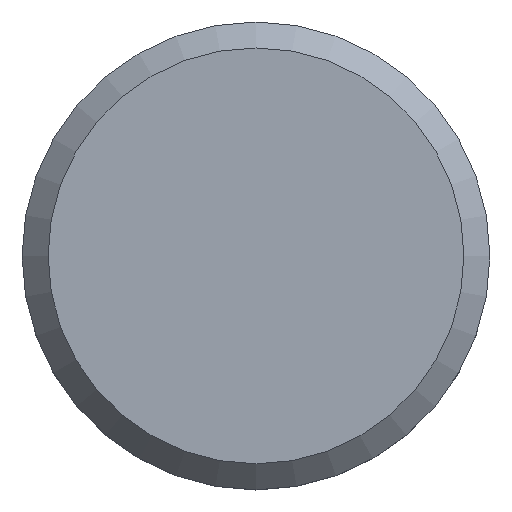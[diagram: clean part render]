
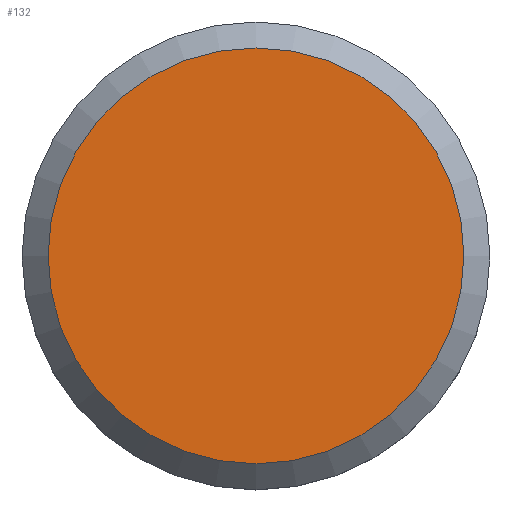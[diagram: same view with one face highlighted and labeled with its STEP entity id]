
A CAD part, top view. The second image highlights one B-rep face of the part: STEP entity #132.
In plain terms, the highlighted planar face has unit normal (0, 0, 1).
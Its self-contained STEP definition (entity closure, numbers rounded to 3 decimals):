
#1 = CARTESIAN_POINT ( 'NONE',  ( 0., 0., 0. ) ) ;
#13 = FACE_OUTER_BOUND ( 'NONE', #92, .T. ) ;
#15 = DIRECTION ( 'NONE',  ( 1., 0., 0. ) ) ;
#27 = CARTESIAN_POINT ( 'NONE',  ( 0., 0., 0. ) ) ;
#42 = AXIS2_PLACEMENT_3D ( 'NONE', #27, #138, #96 ) ;
#54 = EDGE_CURVE ( 'NONE', #80, #80, #122, .T. ) ;
#80 = VERTEX_POINT ( 'NONE', #105 ) ;
#92 = EDGE_LOOP ( 'NONE', ( #104 ) ) ;
#96 = DIRECTION ( 'NONE',  ( -1., 0., 0. ) ) ;
#99 = DIRECTION ( 'NONE',  ( 0., 0., 1. ) ) ;
#103 = PLANE ( 'NONE',  #42 ) ;
#104 = ORIENTED_EDGE ( 'NONE', *, *, #54, .T. ) ;
#105 = CARTESIAN_POINT ( 'NONE',  ( 4., 0., 0. ) ) ;
#122 = CIRCLE ( 'NONE', #136, 4. ) ;
#132 = ADVANCED_FACE ( 'NONE', ( #13 ), #103, .F. ) ;
#136 = AXIS2_PLACEMENT_3D ( 'NONE', #1, #99, #15 ) ;
#138 = DIRECTION ( 'NONE',  ( 0., 0., -1. ) ) ;
